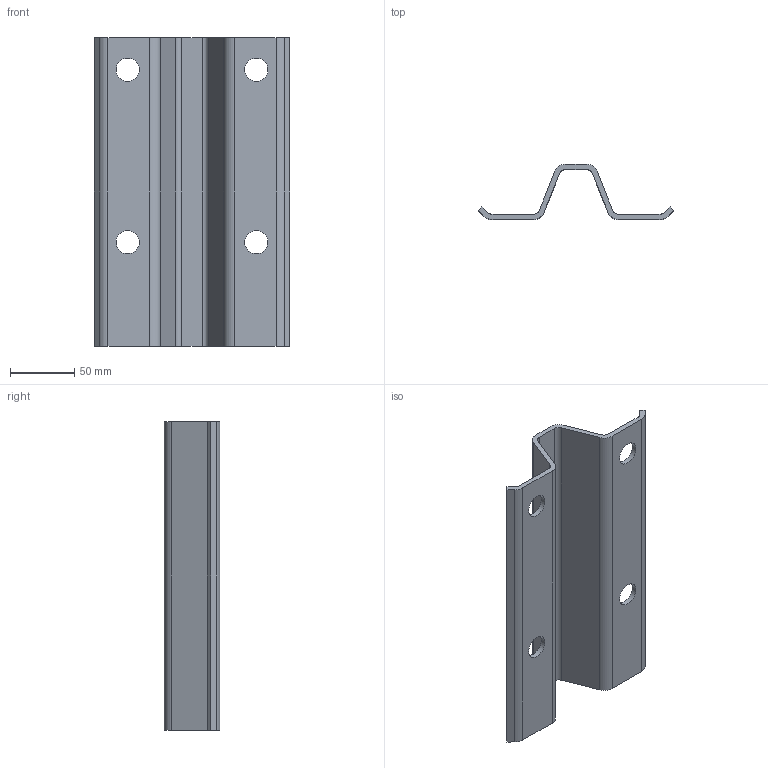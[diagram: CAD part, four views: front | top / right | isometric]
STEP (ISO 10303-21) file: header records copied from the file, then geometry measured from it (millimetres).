
FILE_DESCRIPTION(/* description */ (''),/* implementation_level */ '2;1');
FILE_NAME(/* name */ 'C285.stp',/* time_stamp */ '2023-07-03T11:12:22+02:00',/* author */ ('woriedl'),/* organization */ (''),/* preprocessor_version */ 'ST-DEVELOPER v19.2',/* originating_system */ 'AutoCAD Mechanical',/* authorisation */ '');
FILE_SCHEMA (('AUTOMOTIVE_DESIGN { 1 0 10303 214 3 1 1 }'));
Length unit declared in the file: centimetre
Products named in the file (1): Product
Bounding box: 151.72 x 43 x 240 mm (x, y, z)
Volume: 189679.7 mm3; surface area: 99279.2 mm2
Topology: 1 solids, 1 shells, 34 faces, 96 edges, 64 vertices
Faces by surface type: plane 18, cylinder 16
Full cylindrical faces by diameter (mm): 18 x4
Entity records: 1151 total; most frequent: DIRECTION 198, CARTESIAN_POINT 195, ORIENTED_EDGE 192, EDGE_CURVE 96, AXIS2_PLACEMENT_3D 67, LINE 64, VECTOR 64, VERTEX_POINT 64
